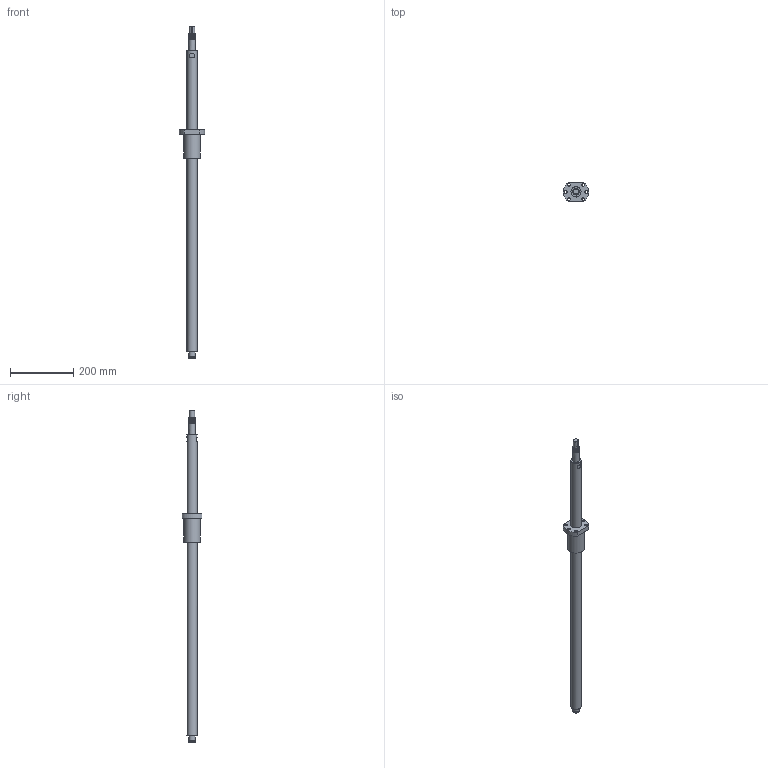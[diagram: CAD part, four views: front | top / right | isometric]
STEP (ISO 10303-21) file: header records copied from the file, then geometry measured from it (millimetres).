
FILE_DESCRIPTION(/* description */ (''),/* implementation_level */ '2;1');
FILE_NAME(/* name */ 'BSG435_asm1.stp',/* time_stamp */ '2017-01-12T15:51:58+08:00',/* author */ (''),/* organization */ (''),/* preprocessor_version */ 'ST-DEVELOPER v15',/* originating_system */ 'SIEMENS PLM Software NX 8.5',/* authorisation */ '');
FILE_SCHEMA (('AUTOMOTIVE_DESIGN { 1 0 10303 214 3 1 1 1 }'));
Length unit declared in the file: millimetre
Products named in the file (3): 01; BSG435; BSG435_asm1
Assembly tree (2 placements, depth 2):
  BSG435_asm1
    BSG435
    01
Bounding box: 79.74 x 62 x 1050 mm (x, y, z)
Volume: 946410.7 mm3; surface area: 138171.8 mm2
Topology: 2 solids, 2 shells, 51 faces, 123 edges, 84 vertices
Faces by surface type: cylinder 24, plane 23, bspline 2, cone 2
Full cylindrical faces by diameter (mm): 9 x6, 17 x1, 19 x1, 20 x8, 32 x2, 53 x1
Entity records: 2679 total; most frequent: CARTESIAN_POINT 1653, DIRECTION 202, ORIENTED_EDGE 162, AXIS2_PLACEMENT_3D 87, EDGE_LOOP 82, EDGE_CURVE 81, VERTEX_POINT 63, FACE_BOUND 60
